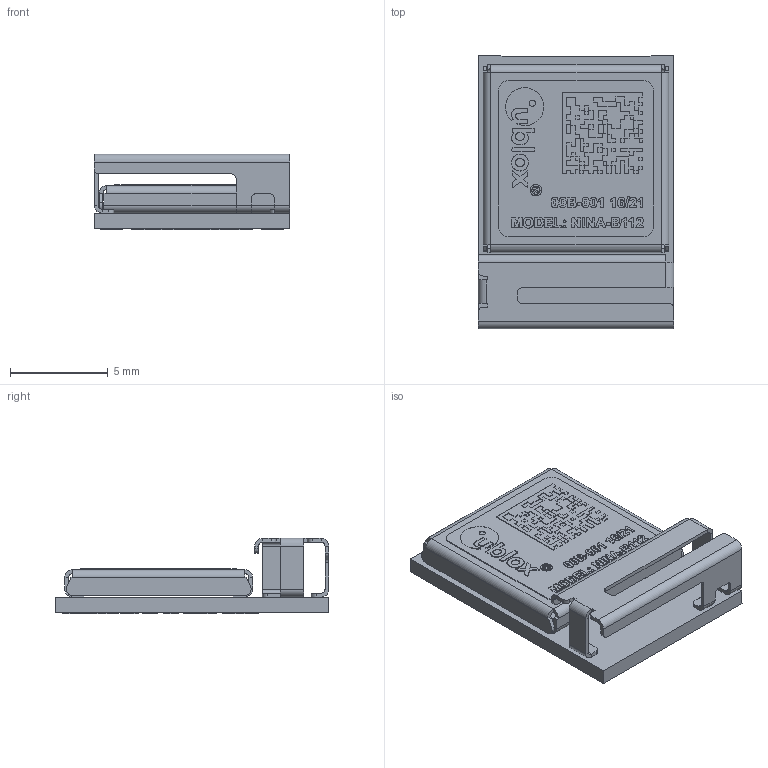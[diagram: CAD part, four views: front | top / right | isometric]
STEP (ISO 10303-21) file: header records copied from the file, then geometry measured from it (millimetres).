
FILE_DESCRIPTION(/* description */ (''),/* implementation_level */ '2;1');
FILE_NAME(/* name */ 'C:/Users/nmtel/OneDrive/Desktop/ublox NINA-B112.step',/* time_stamp */ '2021-09-12T03:47:34+03:00',/* author */ (''),/* organization */ (''),/* preprocessor_version */ 'ST-DEVELOPER v18.1',/* originating_system */ 'Autodesk Translation Framework v10.10.0.1391',/* authorisation */ '');
FILE_SCHEMA (('AUTOMOTIVE_DESIGN { 1 0 10303 214 3 1 1 }'));
Length unit declared in the file: millimetre
Products named in the file (9): ublox NINA (Mechanical Antenna); Amcu; Arduino_Nano_33_IoT; NINA Series; PCB; Component141; Antenna; Module; Component140
Assembly tree (8 placements, depth 6):
  ublox NINA (Mechanical Antenna)
    Amcu
      Arduino_Nano_33_IoT
        NINA Series
          PCB
            Component141
          Antenna
          Module
            Component140
Bounding box: 10 x 14 x 3.85 mm (x, y, z)
Volume: 155.9 mm3; surface area: 971.7 mm2
Topology: 114 solids, 114 shells, 1153 faces, 2677 edges, 1752 vertices
Faces by surface type: plane 828, bspline 266, cylinder 59
Entity records: 35589 total; most frequent: CARTESIAN_POINT 10678, ORIENTED_EDGE 5354, DIRECTION 4151, EDGE_CURVE 2677, LINE 2027, VECTOR 2027, VERTEX_POINT 1752, EDGE_LOOP 1189
